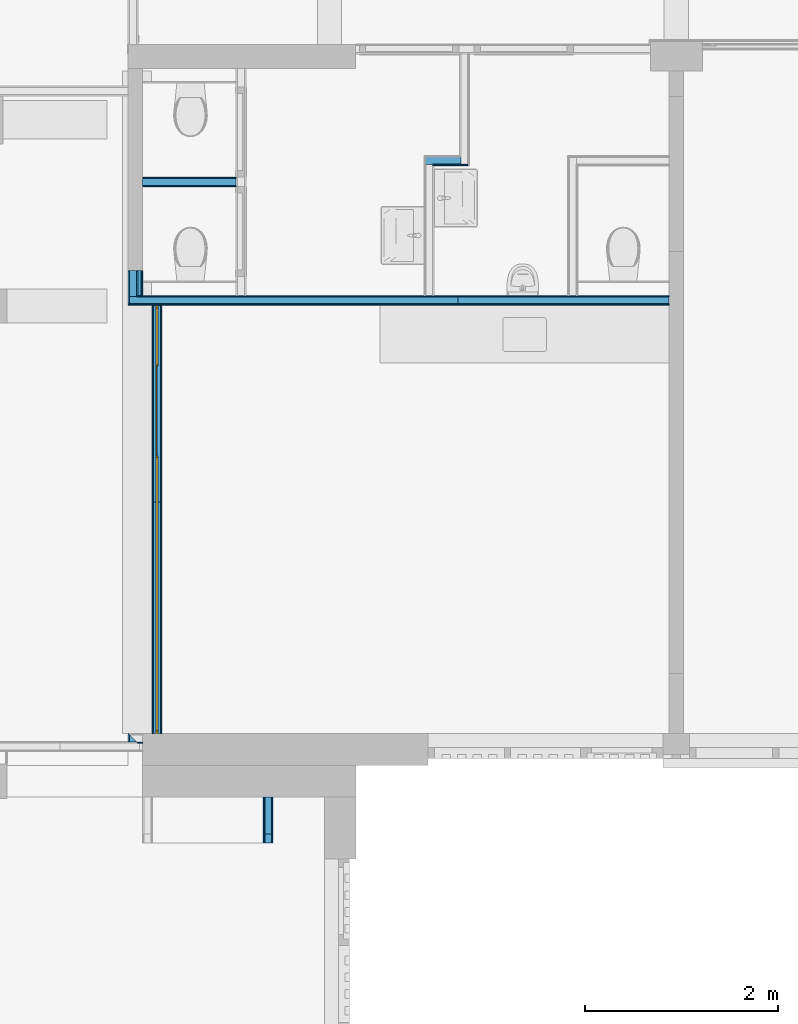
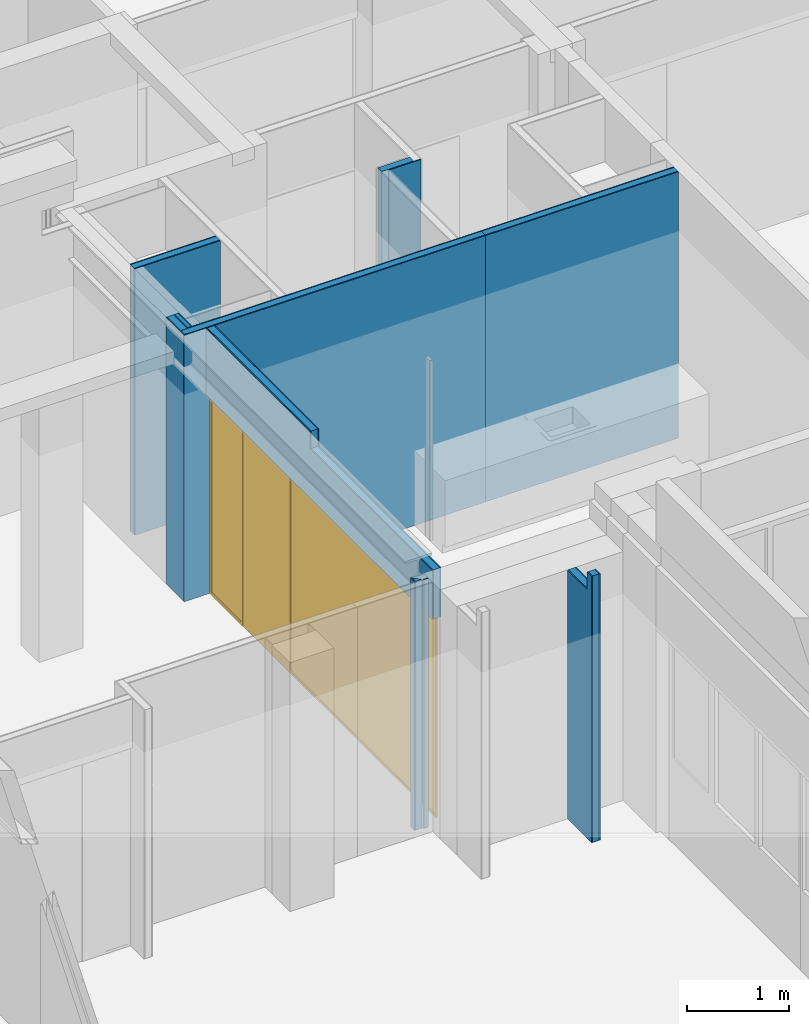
# One storey, part 76 of 117: 25 building element parts, 1 door, 1 opening, 10 elements without a shape of their own.
"""IFC2X3 building model written with IfcOpenShell, lengths in millimetres."""

from ifc_helpers import new_model, entity, si_unit, converted_unit, derived_unit, money_unit, direction, frame, origin_with_axes, place, context, subcontext, project, spatial, open_shell, faceted_brep, surface_model, material, type_object, element, fill, aggregate, save


model = new_model("IFC2X3")

# Units and contexts
model_context = context("Model", 3, precision=0.01, world=origin_with_axes(), true_north=direction((0.0, 1.0)))
body_context = subcontext(model_context, "Body", "Model", "MODEL_VIEW")
ifc_project = project(units=[si_unit("LENGTHUNIT", "METRE", prefix="MILLI"), si_unit("AREAUNIT", "SQUARE_METRE"), si_unit("VOLUMEUNIT", "CUBIC_METRE"), converted_unit("PLANEANGLEUNIT", "DEGREE", entity("IfcPlaneAngleMeasure", 0.0174532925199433), si_unit("PLANEANGLEUNIT", "RADIAN"), dimensions=[0, 0, 0, 0, 0, 0, 0]), money_unit("EUR"), converted_unit("TIMEUNIT", "Year", entity("IfcTimeMeasure", 31557600.0), si_unit("TIMEUNIT", "SECOND"), dimensions=[0, 0, 1, 0, 0, 0, 0]), si_unit("MASSUNIT", "GRAM", prefix="KILO"), si_unit("THERMODYNAMICTEMPERATUREUNIT", "DEGREE_CELSIUS"), si_unit("LUMINOUSINTENSITYUNIT", "LUMEN"), si_unit("ENERGYUNIT", "JOULE", prefix="MEGA"), derived_unit("THERMALCONDUCTANCEUNIT", [(si_unit("POWERUNIT", "WATT"), 1), (si_unit("LENGTHUNIT", "METRE"), -1), (si_unit("THERMODYNAMICTEMPERATUREUNIT", "KELVIN"), -1)]), derived_unit("SPECIFICHEATCAPACITYUNIT", [(si_unit("ENERGYUNIT", "JOULE"), 1), (si_unit("MASSUNIT", "GRAM", prefix="KILO"), -1), (si_unit("THERMODYNAMICTEMPERATUREUNIT", "KELVIN"), -1)]), derived_unit("MASSDENSITYUNIT", [(si_unit("MASSUNIT", "GRAM", prefix="KILO"), 1), (si_unit("VOLUMEUNIT", "CUBIC_METRE"), -1)])], contexts=[model_context])

# Site, building, storey
site_placement = place(None, origin_with_axes())
site = spatial("IfcSite", under=ifc_project, at=site_placement, Name="Site", CompositionType="ELEMENT")
building_placement = place(site_placement, origin_with_axes())
building = spatial("IfcBuilding", under=site, at=building_placement, Name="Naam gebouw", CompositionType="ELEMENT")
storey_placement = place(building_placement, frame((0.0, 0.0, 4150.0), z_axis=(0.0, 0.0, 1.0), x_axis=(1.0, 0.0, 0.0)))
storey = spatial("IfcBuildingStorey", under=building, at=storey_placement, Name="1e verdieping N", CompositionType="ELEMENT", Elevation=4150.0)

# Door
door_style = type_object("IfcDoorStyle", Name="D1 zl2 27", ConstructionType="NOTDEFINED", OperationType="USERDEFINED", ParameterTakesPrecedence=False, Sizeable=False)
wall_9_placement = place(storey_placement, frame((30606.99999999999, 10990.91242510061, 0.0), z_axis=(0.0, 0.0, 1.0), x_axis=(0.0, 1.0, 0.0)))
opening_placement = place(wall_9_placement, frame((2225.000000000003, 0.0, 0.0), z_axis=(0.0, 0.0, 1.0), x_axis=(1.0, 0.0, 0.0)))
door_placement = place(opening_placement, frame((2225.0, 0.0, 0.0), z_axis=(0.0, 0.0, 1.0), x_axis=(-1.0, 0.0, 0.0)))
door = element("IfcDoor", 1, at=door_placement, inside=storey, type_object=door_style, Name="_Merk-x", ObjectType="DOOR", OverallHeight=2400.0, OverallWidth=4450.0, context=body_context, shape_type="SurfaceModel", body=[
    faceted_brep([(4449.999999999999, 10.00000000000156, 0.0), (4449.999999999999, -9.99999999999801, 0.0), (4420.0, -9.99999999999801, 0.0), (4420.0, 10.00000000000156, 0.0), (4449.999999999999, 10.00000000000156, 2370.0), (4449.999999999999, -9.99999999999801, 2370.0), (4420.0, -9.99999999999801, 2370.0), (4420.0, -9.99999999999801, 30.00000000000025), (4420.0, 10.00000000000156, 30.00000000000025), (4420.0, 10.00000000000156, 2370.0)], [[[0, 1, 2, 3]], [[4, 5, 1, 0]], [[1, 5, 6, 7, 2]], [[3, 2, 7, 8]], [[0, 3, 8, 9, 4]], [[9, 6, 5, 4]], [[8, 7, 6, 9]]]),
    faceted_brep([(1550.000000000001, -8.999999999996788, 0.0), (1550.000000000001, -9.99999999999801, 0.0), (1550.000000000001, -9.99999999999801, 2370.0), (1550.000000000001, -8.999999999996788, 2370.0), (1567.0, -8.999999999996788, 0.0), (1567.0, 10.00000000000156, 0.0), (1580.0, 10.00000000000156, 0.0), (1580.0, -9.99999999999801, 0.0), (1580.0, -9.99999999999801, 30.00000000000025), (1580.0, -9.99999999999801, 2370.0), (1567.0, -8.999999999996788, 2370.0), (1580.0, 10.00000000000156, 2370.0), (1567.0, 10.00000000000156, 2370.0), (1580.0, 10.00000000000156, 30.00000000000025)], [[[0, 1, 2, 3]], [[4, 5, 6, 7, 1, 0]], [[7, 8, 9, 2, 1]], [[10, 3, 2, 9, 11, 12]], [[10, 4, 0, 3]], [[12, 5, 4, 10]], [[12, 11, 13, 6, 5]], [[6, 13, 8, 7]], [[13, 11, 9, 8]]]),
    faceted_brep([(4420.0, 10.00000000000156, 30.00000000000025), (4420.0, -9.99999999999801, 30.00000000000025), (4420.0, -9.99999999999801, 0.0), (4420.0, 10.00000000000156, 0.0), (1580.0, 10.00000000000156, 30.00000000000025), (1580.0, -9.99999999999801, 30.00000000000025), (1580.0, -9.99999999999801, 0.0), (1580.0, 10.00000000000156, 0.0)], [[[0, 1, 2, 3]], [[4, 5, 1, 0]], [[1, 5, 6, 2]], [[3, 2, 6, 7]], [[0, 3, 7, 4]], [[7, 6, 5, 4]]]),
    faceted_brep([(0.0, 10.00000000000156, 0.0), (0.0, -9.99999999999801, 0.0), (0.0, -9.99999999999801, 2370.0), (0.0, 10.00000000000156, 2370.0), (29.99999999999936, 10.00000000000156, 0.0), (29.99999999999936, -9.99999999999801, 0.0), (29.99999999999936, -9.99999999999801, 30.00000000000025), (29.99999999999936, -9.99999999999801, 2370.0), (29.99999999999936, 10.00000000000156, 2370.0), (29.99999999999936, 10.00000000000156, 30.00000000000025)], [[[0, 1, 2, 3]], [[4, 5, 1, 0]], [[1, 5, 6, 7, 2]], [[3, 2, 7, 8]], [[0, 3, 8, 9, 4]], [[9, 6, 5, 4]], [[8, 7, 6, 9]]]),
    faceted_brep([(633.0000000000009, -8.999999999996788, 2370.0), (633.0000000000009, 10.00000000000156, 2370.0), (620.000000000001, 10.00000000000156, 2370.0), (620.000000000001, -9.99999999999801, 2370.0), (650.0000000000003, -9.99999999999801, 2370.0), (650.0000000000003, -8.999999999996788, 2370.0), (633.0000000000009, -8.999999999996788, 0.0), (633.0000000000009, 10.00000000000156, 0.0), (620.000000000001, 10.00000000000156, 0.0), (620.000000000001, 10.00000000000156, 30.00000000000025), (620.000000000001, -9.99999999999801, 30.00000000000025), (650.0000000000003, -9.99999999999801, 0.0), (620.000000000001, -9.99999999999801, 0.0), (650.0000000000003, -8.999999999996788, 0.0)], [[[0, 1, 2, 3, 4, 5]], [[0, 6, 7, 1]], [[7, 8, 9, 2, 1]], [[2, 9, 10, 3]], [[11, 4, 3, 10, 12]], [[5, 4, 11, 13]], [[5, 13, 6, 0]], [[6, 13, 11, 12, 8, 7]], [[9, 8, 12, 10]]]),
    faceted_brep([(620.000000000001, 10.00000000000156, 30.00000000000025), (620.000000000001, -9.99999999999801, 30.00000000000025), (620.000000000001, -9.99999999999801, 0.0), (620.000000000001, 10.00000000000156, 0.0), (29.99999999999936, 10.00000000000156, 30.00000000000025), (29.99999999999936, -9.99999999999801, 30.00000000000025), (29.99999999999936, -9.99999999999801, 0.0), (29.99999999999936, 10.00000000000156, 0.0)], [[[0, 1, 2, 3]], [[4, 5, 1, 0]], [[1, 5, 6, 2]], [[3, 2, 6, 7]], [[0, 3, 7, 4]], [[7, 6, 5, 4]]]),
    faceted_brep([(1567.0, 10.00000000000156, 2387.0), (633.0000000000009, 10.00000000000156, 2387.0), (633.0000000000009, 10.00000000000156, 2370.0), (620.000000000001, 10.00000000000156, 2370.0), (29.99999999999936, 10.00000000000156, 2370.0), (0.0, 10.00000000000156, 2370.0), (0.0, 10.00000000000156, 2400.0), (4449.999999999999, 10.00000000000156, 2400.0), (4449.999999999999, 10.00000000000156, 2370.0), (4420.0, 10.00000000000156, 2370.0), (1580.0, 10.00000000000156, 2370.0), (1567.0, 10.00000000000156, 2370.0), (1567.0, -8.999999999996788, 2387.0), (633.0000000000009, -8.999999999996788, 2387.0), (633.0000000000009, -8.999999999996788, 2370.0), (650.0000000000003, -8.999999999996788, 2370.0), (650.0000000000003, -9.99999999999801, 2370.0), (620.000000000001, -9.99999999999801, 2370.0), (29.99999999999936, -9.99999999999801, 2370.0), (0.0, -9.99999999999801, 2370.0), (0.0, -9.99999999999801, 2400.0), (4449.999999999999, -9.99999999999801, 2400.0), (4449.999999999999, -9.99999999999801, 2370.0), (4420.0, -9.99999999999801, 2370.0), (1580.0, -9.99999999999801, 2370.0), (1567.0, -8.999999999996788, 2370.0), (1550.000000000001, -9.99999999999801, 2370.0)], [[[0, 1, 2, 3, 4, 5, 6, 7, 8, 9, 10, 11]], [[0, 12, 13, 1]], [[1, 13, 14, 2]], [[14, 15, 16, 17, 18, 4, 3, 2]], [[5, 4, 18, 19]], [[6, 5, 19, 20]], [[7, 6, 20, 21]], [[8, 7, 21, 22]], [[9, 8, 22, 23]], [[10, 9, 23, 24]], [[25, 11, 10, 24, 26, 16, 15]], [[11, 25, 12, 0]], [[14, 13, 12, 25, 15]], [[18, 17, 16, 26, 24, 23, 22, 21, 20, 19]]]),
    faceted_brep([(633.0000000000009, 1.000000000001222, 0.0), (1567.0, 1.000000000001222, 0.0), (1567.0, -8.999999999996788, 0.0), (633.0000000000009, -8.999999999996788, 0.0), (633.0000000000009, 1.000000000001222, 2387.0), (1567.0, 1.000000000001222, 2387.0), (1567.0, -9.000000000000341, 2387.0), (633.0000000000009, -8.999999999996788, 2387.0)], [[[0, 1, 2, 3]], [[0, 4, 5, 1]], [[1, 5, 6, 2]], [[3, 2, 6, 7]], [[4, 0, 3, 7]], [[5, 4, 7, 6]]]),
    surface_model("IfcShellBasedSurfaceModel", [(4420.0, 9.000000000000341, 30.00000000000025), (1580.0, 9.000000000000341, 30.00000000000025), (1580.0, 9.000000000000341, 2370.0), (4420.0, 9.000000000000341, 2370.0)], [open_shell([[[0, 1, 2, 3]]])]),
    surface_model("IfcShellBasedSurfaceModel", [(4420.0, 1.000000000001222, 30.00000000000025), (4420.0, 1.000000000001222, 2370.0), (1580.0, 1.000000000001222, 2370.0), (1580.0, 1.000000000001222, 30.00000000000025)], [open_shell([[[0, 1, 2, 3]]])]),
    surface_model("IfcShellBasedSurfaceModel", [(619.9999999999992, 9.000000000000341, 30.00000000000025), (29.99999999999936, 9.000000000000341, 30.00000000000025), (29.99999999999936, 9.000000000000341, 2370.0), (619.9999999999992, 9.000000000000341, 2370.0)], [open_shell([[[0, 1, 2, 3]]])]),
    surface_model("IfcShellBasedSurfaceModel", [(619.9999999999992, 1.000000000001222, 30.00000000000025), (619.9999999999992, 1.000000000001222, 2370.0), (29.99999999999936, 1.000000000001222, 2370.0), (29.99999999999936, 1.000000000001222, 30.00000000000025)], [open_shell([[[0, 1, 2, 3]]])]),
])

# Wall, building element parts
wall_type_1 = type_object("IfcWallType", Name="Metalstud iso 100 enkel 100", PredefinedType="NOTDEFINED")
wall_1_placement = place(storey_placement, frame((30356.99999999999, 15440.91242510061, 0.0), z_axis=(0.0, 0.0, 1.0), x_axis=(0.0, 1.0, 0.0)))
wall_1 = element("IfcWall", 2, at=wall_1_placement, inside=storey, type_object=wall_type_1, Name="_Wand-x")
ifc_material_1 = material(Name="Gipsplaat")
building_element_part_1_placement = place(wall_1_placement, origin_with_axes())
building_element_part_1 = element("IfcBuildingElementPart", 3, at=building_element_part_1_placement, material=ifc_material_1, Name="Gipsplaat", context=body_context, shape_type="Brep", body=[
    faceted_brep([(359.9999999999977, -87.49999999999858, 3200.0), (359.9999999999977, -100.0000000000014, 3200.0), (359.9999999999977, -100.0000000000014, 0.0), (359.9999999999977, -87.49999999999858, 0.0), (99.99999999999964, -100.0000000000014, 3200.0), (99.99999999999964, -87.49999999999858, 3200.0), (99.99999999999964, -100.0000000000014, 0.0), (99.99999999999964, -87.49999999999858, 0.0)], [[[0, 1, 2, 3]], [[4, 1, 0, 5]], [[1, 4, 6, 2]], [[7, 3, 2, 6]], [[5, 0, 3, 7]], [[4, 5, 7, 6]]]),
])
ifc_material_2 = material(Name="Isolatie - Steenwol LSW")
building_element_part_2_placement = place(wall_1_placement, origin_with_axes())
building_element_part_2 = element("IfcBuildingElementPart", 4, at=building_element_part_2_placement, material=ifc_material_2, Name="Isolatie - Steenwol LSW", context=body_context, shape_type="Brep", body=[
    faceted_brep([(359.9999999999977, 0.0, 3200.0), (359.9999999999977, -87.49999999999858, 3200.0), (359.9999999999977, -87.49999999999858, 0.0), (359.9999999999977, 0.0, 0.0), (99.99999999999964, -87.49999999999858, 3200.0), (99.99999999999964, 0.0, 3200.0), (99.99999999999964, -87.49999999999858, 0.0), (99.99999999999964, 0.0, 0.0)], [[[0, 1, 2, 3]], [[4, 1, 0, 5]], [[1, 4, 6, 2]], [[7, 3, 2, 6]], [[5, 0, 3, 7]], [[4, 5, 7, 6]]]),
])
aggregate(wall_1, [building_element_part_1, building_element_part_2])

wall_type_2 = type_object("IfcWallType", Name="Metalstud iso 100 100", PredefinedType="NOTDEFINED")
wall_2_placement = place(storey_placement, frame((33749.1870993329, 16990.91242510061, 0.0), z_axis=(0.0, 0.0, 1.0), x_axis=(-1.0, 0.0, 0.0)))
wall_2 = element("IfcWall", 5, at=wall_2_placement, inside=storey, type_object=wall_type_2, Name="_Wand-x")
building_element_part_3_placement = place(wall_2_placement, origin_with_axes())
building_element_part_3 = element("IfcBuildingElementPart", 6, at=building_element_part_3_placement, material=ifc_material_1, Name="Gipsplaat", context=body_context, shape_type="Brep", body=[
    faceted_brep([(278.5689217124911, 87.49999999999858, 3200.0), (-87.49999999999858, 87.49999999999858, 3200.0), (-87.49999999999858, 87.49999999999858, 0.0), (278.5689217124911, 87.49999999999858, 0.0), (-87.49999999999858, 100.0000000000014, 3200.0), (278.5689217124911, 100.0000000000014, 3200.0), (-87.49999999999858, 100.0000000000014, 0.0), (278.5689217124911, 100.0000000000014, 0.0)], [[[0, 1, 2, 3]], [[4, 1, 0, 5]], [[1, 4, 6, 2]], [[7, 3, 2, 6]], [[5, 0, 3, 7]], [[4, 5, 7, 6]]]),
])
building_element_part_4_placement = place(wall_2_placement, origin_with_axes())
building_element_part_4 = element("IfcBuildingElementPart", 7, at=building_element_part_4_placement, material=ifc_material_2, Name="Isolatie - Steenwol LSW", context=body_context, shape_type="Brep", body=[
    faceted_brep([(353.5689217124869, 12.49999999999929, 3200.0), (-12.50000000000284, 12.49999999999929, 3200.0), (-12.50000000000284, 12.49999999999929, 0.0), (353.5689217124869, 12.49999999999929, 0.0), (-12.50000000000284, 87.49999999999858, 3200.0), (353.5689217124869, 87.49999999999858, 3200.0), (-12.50000000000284, 87.49999999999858, 0.0), (353.5689217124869, 87.49999999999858, 0.0)], [[[0, 1, 2, 3]], [[4, 1, 0, 5]], [[1, 4, 6, 2]], [[7, 3, 2, 6]], [[5, 0, 3, 7]], [[4, 5, 7, 6]]]),
])
aggregate(wall_2, [building_element_part_3, building_element_part_4])

wall_3_placement = place(storey_placement, frame((33733.18709933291, 15440.91242510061, 0.0), z_axis=(0.0, 0.0, 1.0), x_axis=(-1.0, 0.0, 0.0)))
wall_3 = element("IfcWall", 8, at=wall_3_placement, inside=storey, type_object=wall_type_2, Name="_Wand-x")
building_element_part_5_placement = place(wall_3_placement, origin_with_axes())
building_element_part_5 = element("IfcBuildingElementPart", 9, at=building_element_part_5_placement, material=ifc_material_2, Name="Isolatie - Steenwol LSW", context=body_context, shape_type="Brep", body=[
    faceted_brep([(3413.687099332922, -87.50000000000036, 3200.0), (0.0, -87.50000000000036, 3200.0), (0.0, -87.50000000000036, 0.0), (3413.687099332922, -87.50000000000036, 0.0), (0.0, -12.49999999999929, 3200.0), (3413.687099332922, -12.49999999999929, 3200.0), (0.0, -12.49999999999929, 0.0), (3413.687099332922, -12.50000000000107, 0.0)], [[[0, 1, 2, 3]], [[4, 1, 0, 5]], [[1, 4, 6, 2]], [[7, 3, 2, 6]], [[5, 0, 3, 7]], [[4, 5, 7, 6]]]),
])
building_element_part_6_placement = place(wall_3_placement, origin_with_axes())
building_element_part_6 = element("IfcBuildingElementPart", 10, at=building_element_part_6_placement, material=ifc_material_1, Name="Gipsplaat", context=body_context, shape_type="Brep", body=[
    faceted_brep([(3426.187099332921, -12.49999999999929, 3200.0), (0.0, -12.49999999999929, 3200.0), (0.0, -12.49999999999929, 0.0), (3426.187099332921, -12.50000000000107, 0.0), (0.0, 0.0, 3200.0), (3426.187099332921, 0.0, 3200.0), (0.0, 0.0, 0.0), (3426.187099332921, 0.0, 0.0)], [[[0, 1, 2, 3]], [[4, 1, 0, 5]], [[1, 4, 6, 2]], [[7, 3, 2, 6]], [[5, 0, 3, 7]], [[4, 5, 7, 6]]]),
])
building_element_part_7_placement = place(wall_3_placement, origin_with_axes())
building_element_part_7 = element("IfcBuildingElementPart", 11, at=building_element_part_7_placement, material=ifc_material_1, Name="Gipsplaat", context=body_context, shape_type="Brep", body=[
    faceted_brep([(3338.687099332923, -99.99999999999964, 3200.0), (0.0, -99.99999999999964, 3200.0), (0.0, -99.99999999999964, 0.0), (3338.687099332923, -99.99999999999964, 0.0), (0.0, -87.50000000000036, 3200.0), (3338.687099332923, -87.50000000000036, 3200.0), (0.0, -87.50000000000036, 0.0), (3338.687099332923, -87.50000000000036, 0.0)], [[[0, 1, 2, 3]], [[4, 1, 0, 5]], [[1, 4, 6, 2]], [[7, 3, 2, 6]], [[5, 0, 3, 7]], [[4, 5, 7, 6]]]),
])
aggregate(wall_3, [building_element_part_5, building_element_part_6, building_element_part_7])

wall_4_placement = place(storey_placement, frame((30456.99999999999, 16720.91242510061, 0.0), z_axis=(0.0, 0.0, 1.0), x_axis=(1.0, 0.0, 0.0)))
wall_4 = element("IfcWall", 12, at=wall_4_placement, inside=storey, type_object=wall_type_2, Name="_Wand-x")
building_element_part_8_placement = place(wall_4_placement, origin_with_axes())
building_element_part_8 = element("IfcBuildingElementPart", 13, at=building_element_part_8_placement, material=ifc_material_1, Name="Gipsplaat", context=body_context, shape_type="Brep", body=[
    faceted_brep([(0.0, 50.00000000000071, 3200.0), (972.1870993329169, 50.00000000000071, 3200.0), (972.1870993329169, 50.00000000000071, 0.0), (0.0, 50.00000000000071, 0.0), (972.1870993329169, 37.50000000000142, 3200.0), (0.0, 37.50000000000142, 3200.0), (972.1870993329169, 37.50000000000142, 0.0), (0.0, 37.50000000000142, 0.0)], [[[0, 1, 2, 3]], [[4, 1, 0, 5]], [[1, 4, 6, 2]], [[6, 7, 3, 2]], [[5, 0, 3, 7]], [[4, 5, 7, 6]]]),
])
building_element_part_9_placement = place(wall_4_placement, origin_with_axes())
building_element_part_9 = element("IfcBuildingElementPart", 14, at=building_element_part_9_placement, material=ifc_material_2, Name="Isolatie - Steenwol LSW", context=body_context, shape_type="Brep", body=[
    faceted_brep([(0.0, 37.50000000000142, 3200.0), (972.1870993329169, 37.50000000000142, 3200.0), (972.1870993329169, 37.50000000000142, 0.0), (0.0, 37.50000000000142, 0.0), (972.1870993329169, -37.50000000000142, 3200.0), (0.0, -37.50000000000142, 3200.0), (972.1870993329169, -37.50000000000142, 0.0), (0.0, -37.50000000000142, 0.0)], [[[0, 1, 2, 3]], [[4, 1, 0, 5]], [[1, 4, 6, 2]], [[6, 7, 3, 2]], [[5, 0, 3, 7]], [[4, 5, 7, 6]]]),
])
building_element_part_10_placement = place(wall_4_placement, origin_with_axes())
building_element_part_10 = element("IfcBuildingElementPart", 15, at=building_element_part_10_placement, material=ifc_material_1, Name="Gipsplaat", context=body_context, shape_type="Brep", body=[
    faceted_brep([(0.0, -37.50000000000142, 3200.0), (972.1870993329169, -37.50000000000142, 3200.0), (972.1870993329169, -37.50000000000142, 0.0), (0.0, -37.50000000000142, 0.0), (972.1870993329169, -50.00000000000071, 3200.0), (0.0, -50.00000000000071, 3200.0), (972.1870993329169, -50.00000000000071, 0.0), (0.0, -50.00000000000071, 0.0)], [[[0, 1, 2, 3]], [[4, 1, 0, 5]], [[1, 4, 6, 2]], [[6, 7, 3, 2]], [[5, 0, 3, 7]], [[4, 5, 7, 6]]]),
])
aggregate(wall_4, [building_element_part_8, building_element_part_9, building_element_part_10])

wall_5_placement = place(storey_placement, frame((30306.99999999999, 15440.91242510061, 0.0), z_axis=(0.0, 0.0, 1.0), x_axis=(0.0, 1.0, 0.0)))
wall_5 = element("IfcWall", 16, at=wall_5_placement, inside=storey, type_object=wall_type_2, Name="_Wand-x")
building_element_part_11_placement = place(wall_5_placement, origin_with_axes())
building_element_part_11 = element("IfcBuildingElementPart", 17, at=building_element_part_11_placement, material=ifc_material_2, Name="Isolatie - Steenwol LSW", context=body_context, shape_type="Brep", body=[
    faceted_brep([(359.9999999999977, -12.49999999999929, 3200.0), (359.9999999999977, -87.49999999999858, 3200.0), (359.9999999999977, -87.49999999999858, 0.0), (359.9999999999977, -12.49999999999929, 0.0), (87.50000000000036, -87.49999999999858, 3200.0), (87.50000000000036, -12.49999999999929, 3200.0), (87.50000000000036, -87.49999999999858, 0.0), (87.50000000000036, -12.49999999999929, 0.0)], [[[0, 1, 2, 3]], [[4, 1, 0, 5]], [[1, 4, 6, 2]], [[7, 3, 2, 6]], [[5, 0, 3, 7]], [[4, 5, 7, 6]]]),
])
building_element_part_12_placement = place(wall_5_placement, origin_with_axes())
building_element_part_12 = element("IfcBuildingElementPart", 18, at=building_element_part_12_placement, material=ifc_material_1, Name="Gipsplaat", context=body_context, shape_type="Brep", body=[
    faceted_brep([(359.9999999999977, -87.49999999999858, 3200.0), (359.9999999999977, -100.0000000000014, 3200.0), (359.9999999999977, -100.0000000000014, 0.0), (359.9999999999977, -87.49999999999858, 0.0), (99.99999999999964, -100.0000000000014, 3200.0), (99.99999999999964, -87.49999999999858, 3200.0), (99.99999999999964, -100.0000000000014, 0.0), (99.99999999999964, -87.49999999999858, 0.0)], [[[0, 1, 2, 3]], [[4, 1, 0, 5]], [[1, 4, 6, 2]], [[7, 3, 2, 6]], [[5, 0, 3, 7]], [[4, 5, 7, 6]]]),
])

# Wall, building element part
wall_6_placement = place(storey_placement, frame((36000.0, 15440.91242510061, 0.0), z_axis=(0.0, 0.0, 1.0), x_axis=(-1.0, 0.0, 0.0)))
wall_6 = element("IfcWall", 19, at=wall_6_placement, inside=storey, type_object=wall_type_2, Name="_Wand-x")
building_element_part_13_placement = place(wall_6_placement, origin_with_axes())
building_element_part_13 = element("IfcBuildingElementPart", 20, at=building_element_part_13_placement, material=ifc_material_1, Name="Gipsplaat", context=body_context, shape_type="Brep", body=[
    faceted_brep([(2266.812900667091, -12.49999999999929, 3200.0), (75.00000000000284, -12.49999999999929, 3200.0), (75.00000000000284, -12.49999999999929, 0.0), (2266.812900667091, -12.49999999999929, 0.0), (75.00000000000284, 0.0, 3200.0), (2266.812900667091, 0.0, 3200.0), (75.00000000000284, 0.0, 0.0), (2266.812900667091, 0.0, 0.0)], [[[0, 1, 2, 3]], [[4, 1, 0, 5]], [[1, 4, 6, 2]], [[3, 2, 6, 7]], [[5, 0, 3, 7]], [[4, 5, 7, 6]]]),
])

# Building element part
building_element_part_14_placement = place(wall_5_placement, origin_with_axes())
building_element_part_14 = element("IfcBuildingElementPart", 21, at=building_element_part_14_placement, material=ifc_material_1, Name="Gipsplaat", context=body_context, shape_type="Brep", body=[
    faceted_brep([(359.9999999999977, 0.0, 3200.0), (359.9999999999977, -12.49999999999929, 3200.0), (359.9999999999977, -12.49999999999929, 0.0), (359.9999999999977, 0.0, 0.0), (12.49999999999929, -12.49999999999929, 3200.0), (12.49999999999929, 0.0, 3200.0), (12.49999999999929, -12.49999999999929, 0.0), (12.49999999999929, 0.0, 0.0)], [[[0, 1, 2, 3]], [[4, 1, 0, 5]], [[1, 4, 6, 2]], [[7, 3, 2, 6]], [[5, 0, 3, 7]], [[4, 5, 7, 6]]]),
])

aggregate(wall_5, [building_element_part_11, building_element_part_12, building_element_part_14])

building_element_part_15_placement = place(wall_6_placement, origin_with_axes())
building_element_part_15 = element("IfcBuildingElementPart", 22, at=building_element_part_15_placement, material=ifc_material_2, Name="Isolatie - Steenwol LSW", context=body_context, shape_type="Brep", body=[
    faceted_brep([(2266.812900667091, -87.50000000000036, 3200.0), (75.00000000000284, -87.50000000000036, 3200.0), (75.00000000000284, -87.50000000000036, 0.0), (2266.812900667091, -87.50000000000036, 0.0), (75.00000000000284, -12.49999999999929, 3200.0), (2266.812900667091, -12.49999999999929, 3200.0), (75.00000000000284, -12.49999999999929, 0.0), (2266.812900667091, -12.49999999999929, 0.0)], [[[0, 1, 2, 3]], [[4, 1, 0, 5]], [[1, 4, 6, 2]], [[3, 2, 6, 7]], [[5, 0, 3, 7]], [[4, 5, 7, 6]]]),
])

building_element_part_16_placement = place(wall_6_placement, origin_with_axes())
building_element_part_16 = element("IfcBuildingElementPart", 23, at=building_element_part_16_placement, material=ifc_material_1, Name="Gipsplaat", context=body_context, shape_type="Brep", body=[
    faceted_brep([(2266.812900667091, -99.99999999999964, 3200.0), (75.00000000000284, -99.99999999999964, 3200.0), (75.00000000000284, -99.99999999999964, 0.0), (2266.812900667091, -99.99999999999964, 0.0), (75.00000000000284, -87.50000000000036, 3200.0), (2266.812900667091, -87.50000000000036, 3200.0), (75.00000000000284, -87.50000000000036, 0.0), (2266.812900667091, -87.50000000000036, 0.0)], [[[0, 1, 2, 3]], [[4, 1, 0, 5]], [[1, 4, 6, 2]], [[3, 2, 6, 7]], [[5, 0, 3, 7]], [[4, 5, 7, 6]]]),
])

aggregate(wall_6, [building_element_part_13, building_element_part_15, building_element_part_16])

# Wall, building element part
wall_7_placement = place(storey_placement, frame((30306.99999999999, 10990.91242510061, 0.0), z_axis=(0.0, 0.0, 1.0), x_axis=(1.0, 0.0, 0.0)))
wall_7 = element("IfcWall", 24, at=wall_7_placement, inside=storey, type_object=wall_type_2, Name="_Wand-x")
building_element_part_17_placement = place(wall_7_placement, origin_with_axes())
building_element_part_17 = element("IfcBuildingElementPart", 25, at=building_element_part_17_placement, material=ifc_material_1, Name="Gipsplaat", context=body_context, shape_type="Brep", body=[
    faceted_brep([(87.50000000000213, -87.50000000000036, 2990.000000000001), (149.9999999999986, -87.50000000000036, 2990.000000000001), (149.9999999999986, -87.50000000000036, 0.0), (87.50000000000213, -87.50000000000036, 0.0), (149.9999999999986, -99.99999999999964, 2990.000000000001), (100.000000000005, -99.99999999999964, 2990.000000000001), (149.9999999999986, -99.99999999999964, 0.0), (100.000000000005, -99.99999999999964, 0.0)], [[[0, 1, 2, 3]], [[4, 1, 0, 5]], [[1, 4, 6, 2]], [[6, 7, 3, 2]], [[5, 0, 3, 7]], [[4, 5, 7, 6]]]),
])
aggregate(wall_7, [building_element_part_17])

# Wall, building element parts
wall_8_placement = place(storey_placement, frame((30306.99999999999, 10805.91242510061, 0.0), z_axis=(0.0, 0.0, 1.0), x_axis=(0.0, 1.0, 0.0)))
wall_8 = element("IfcWall", 26, at=wall_8_placement, inside=storey, type_object=wall_type_2, Name="_Wand-x")
building_element_part_18_placement = place(wall_8_placement, origin_with_axes())
building_element_part_18 = element("IfcBuildingElementPart", 27, at=building_element_part_18_placement, material=ifc_material_1, Name="Gipsplaat", context=body_context, shape_type="Brep", body=[
    faceted_brep([(184.9999999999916, 0.0, 2990.000000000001), (172.4999999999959, -12.49999999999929, 2990.000000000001), (172.4999999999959, -12.49999999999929, 0.0), (184.9999999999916, 0.0, 0.0), (99.99999999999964, -12.49999999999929, 2990.000000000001), (99.99999999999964, 0.0, 2990.000000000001), (99.99999999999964, -12.49999999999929, 0.0), (99.99999999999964, 0.0, 0.0)], [[[0, 1, 2, 3]], [[4, 1, 0, 5]], [[1, 4, 6, 2]], [[2, 6, 7, 3]], [[5, 0, 3, 7]], [[4, 5, 7, 6]]]),
])
building_element_part_19_placement = place(wall_8_placement, origin_with_axes())
building_element_part_19 = element("IfcBuildingElementPart", 28, at=building_element_part_19_placement, material=ifc_material_2, Name="Isolatie - Steenwol LSW", context=body_context, shape_type="Brep", body=[
    faceted_brep([(172.4999999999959, -12.49999999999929, 2990.000000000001), (99.99999999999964, -84.9999999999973, 2990.000000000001), (99.99999999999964, -84.9999999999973, 0.0), (172.4999999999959, -12.49999999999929, 0.0), (99.99999999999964, -12.49999999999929, 2990.000000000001), (99.99999999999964, -12.49999999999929, 0.0)], [[[0, 1, 2, 3]], [[4, 1, 0]], [[1, 4, 5, 2]], [[3, 2, 5]], [[4, 0, 3, 5]]]),
])
aggregate(wall_8, [building_element_part_18, building_element_part_19])

# Wall, opening
wall_9 = element("IfcWall", 29, at=wall_9_placement, inside=storey, type_object=wall_type_2, Name="_Wand-x")
opening = element("IfcOpeningElement", 30, at=opening_placement, cuts=wall_9, Name="_Merk-x", context=body_context, shape_type="Brep", body=[
    faceted_brep([(2225.0, -10.00000000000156, 0.0), (2225.0, -10.00000000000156, 2400.0), (2225.0, -51.00000000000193, 2400.0), (2225.0, -51.00000000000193, 0.0), (2225.0, 51.00000000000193, 0.0), (2225.0, 51.00000000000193, 2400.0), (-2225.0, -9.99999999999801, 2400.0), (-2225.0, -51.00000000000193, 2400.0), (-2225.0, 51.00000000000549, 2400.0), (-2225.0, -51.00000000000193, 0.0), (-2225.0, -10.00000000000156, 0.0), (-2225.0, 51.00000000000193, 0.0)], [[[0, 1, 2, 3]], [[1, 0, 4, 5]], [[6, 7, 2, 1, 5, 8]], [[7, 9, 3, 2]], [[0, 3, 9, 10, 11, 4]], [[5, 4, 11, 8]], [[6, 10, 9, 7]], [[10, 6, 8, 11]]]),
])

fill(opening, door)

# Building element part
building_element_part_20_placement = place(wall_9_placement, origin_with_axes())
building_element_part_20 = element("IfcBuildingElementPart", 31, at=building_element_part_20_placement, material=ifc_material_1, Name="Gipsplaat", context=body_context, shape_type="Brep", body=[
    faceted_brep([(0.0, 37.50000000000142, 2400.0), (4450.000000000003, 37.50000000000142, 2400.0), (4450.000000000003, 37.50000000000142, 3200.0), (2405.000000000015, 37.50000000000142, 3200.000000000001), (2405.000000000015, 37.50000000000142, 2990.000000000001), (0.0, 37.50000000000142, 2990.000000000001), (4450.000000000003, 50.00000000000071, 2400.0), (0.0, 50.00000000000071, 2400.0), (4450.000000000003, 50.00000000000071, 3200.0), (2405.000000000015, 50.00000000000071, 3200.000000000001), (2405.000000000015, 50.00000000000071, 2990.000000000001), (0.0, 50.00000000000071, 2990.000000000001)], [[[0, 1, 2, 3, 4, 5]], [[6, 1, 0, 7]], [[1, 6, 8, 2]], [[3, 2, 8, 9]], [[3, 9, 10, 4]], [[4, 10, 11, 5]], [[7, 0, 5, 11]], [[6, 7, 11, 10, 9, 8]]]),
])

building_element_part_21_placement = place(wall_9_placement, origin_with_axes())
building_element_part_21 = element("IfcBuildingElementPart", 32, at=building_element_part_21_placement, material=ifc_material_2, Name="Isolatie - Steenwol LSW", context=body_context, shape_type="Brep", body=[
    faceted_brep([(0.0, -9.99999999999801, 2400.0), (0.0, 37.50000000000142, 2400.0), (4450.000000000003, 37.50000000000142, 2400.0), (4450.000000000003, -10.00000000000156, 2400.0), (4450.000000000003, -37.50000000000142, 2400.0), (0.0, -37.50000000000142, 2400.0), (0.0, -37.50000000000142, 2990.000000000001), (0.0, 37.50000000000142, 2990.000000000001), (2405.000000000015, 37.50000000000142, 2990.000000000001), (2405.000000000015, 37.50000000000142, 3200.000000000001), (4450.000000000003, 37.50000000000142, 3200.0), (4450.000000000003, -37.50000000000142, 3200.0), (2405.000000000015, -37.50000000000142, 3200.000000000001), (2405.000000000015, -37.50000000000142, 2990.000000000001)], [[[0, 1, 2, 3, 4, 5]], [[1, 0, 5, 6, 7]], [[2, 1, 7, 8, 9, 10]], [[3, 2, 10, 11, 4]], [[12, 13, 6, 5, 4, 11]], [[8, 7, 6, 13]], [[9, 8, 13, 12]], [[11, 10, 9, 12]]]),
])

building_element_part_22_placement = place(wall_9_placement, origin_with_axes())
building_element_part_22 = element("IfcBuildingElementPart", 33, at=building_element_part_22_placement, material=ifc_material_1, Name="Gipsplaat", context=body_context, shape_type="Brep", body=[
    faceted_brep([(0.0, -50.00000000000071, 2400.0), (4450.000000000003, -50.00000000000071, 2400.0), (4450.000000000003, -50.00000000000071, 3200.0), (2405.000000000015, -50.00000000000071, 3200.000000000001), (2405.000000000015, -50.00000000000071, 2990.000000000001), (0.0, -50.00000000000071, 2990.000000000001), (4450.000000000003, -37.50000000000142, 2400.0), (0.0, -37.50000000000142, 2400.0), (4450.000000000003, -37.50000000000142, 3200.0), (2405.000000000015, -37.50000000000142, 3200.000000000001), (2405.000000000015, -37.50000000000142, 2990.000000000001), (0.0, -37.50000000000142, 2990.000000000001)], [[[0, 1, 2, 3, 4, 5]], [[6, 1, 0, 7]], [[1, 6, 8, 2]], [[3, 2, 8, 9]], [[3, 9, 10, 4]], [[4, 10, 11, 5]], [[7, 0, 5, 11]], [[6, 7, 11, 10, 9, 8]]]),
])

aggregate(wall_9, [building_element_part_20, building_element_part_21, building_element_part_22])

# Wall, building element parts
wall_10_placement = place(storey_placement, frame((31811.1870993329, 10660.91242510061, 0.0), z_axis=(0.0, 0.0, 1.0), x_axis=(0.0, -1.0, 0.0)))
wall_10 = element("IfcWall", 34, at=wall_10_placement, inside=storey, type_object=wall_type_2, Name="_Wand-x")
building_element_part_23_placement = place(wall_10_placement, origin_with_axes())
building_element_part_23 = element("IfcBuildingElementPart", 35, at=building_element_part_23_placement, material=ifc_material_1, Name="Gipsplaat", context=body_context, shape_type="Brep", body=[
    faceted_brep([(330.0000000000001, -12.49999999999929, 2990.000000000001), (330.0000000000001, 0.0, 2990.000000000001), (330.0000000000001, 0.0, 0.0), (330.0000000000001, -12.49999999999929, 0.0), (714.9999999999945, 0.0, 2990.000000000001), (714.9999999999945, -12.49999999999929, 2990.000000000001), (714.9999999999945, 0.0, 3200.000000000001), (804.999999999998, 0.0, 3200.0), (804.999999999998, 0.0, 0.0), (804.999999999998, -12.49999999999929, 0.0), (804.999999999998, -12.49999999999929, 3200.0), (714.9999999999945, -12.49999999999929, 3200.000000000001)], [[[0, 1, 2, 3]], [[4, 1, 0, 5]], [[4, 6, 7, 8, 2, 1]], [[9, 3, 2, 8]], [[5, 0, 3, 9, 10, 11]], [[11, 6, 4, 5]], [[6, 11, 10, 7]], [[7, 10, 9, 8]]]),
])
building_element_part_24_placement = place(wall_10_placement, origin_with_axes())
building_element_part_24 = element("IfcBuildingElementPart", 36, at=building_element_part_24_placement, material=ifc_material_2, Name="Isolatie - Steenwol LSW", context=body_context, shape_type="Brep", body=[
    faceted_brep([(330.0000000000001, -87.49999999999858, 2990.000000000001), (330.0000000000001, -12.49999999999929, 2990.000000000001), (330.0000000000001, -12.49999999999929, 0.0), (330.0000000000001, -87.49999999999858, 0.0), (714.9999999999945, -12.49999999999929, 2990.000000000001), (714.9999999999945, -87.49999999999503, 2990.000000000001), (714.9999999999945, -12.49999999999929, 3200.000000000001), (804.999999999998, -12.49999999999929, 3200.0), (804.999999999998, -12.49999999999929, 0.0), (804.999999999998, -87.49999999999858, 0.0), (804.999999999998, -87.49999999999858, 3200.0), (714.9999999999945, -87.49999999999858, 3200.000000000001)], [[[0, 1, 2, 3]], [[4, 1, 0, 5]], [[4, 6, 7, 8, 2, 1]], [[9, 3, 2, 8]], [[5, 0, 3, 9, 10, 11]], [[11, 6, 4, 5]], [[6, 11, 10, 7]], [[7, 10, 9, 8]]]),
])
building_element_part_25_placement = place(wall_10_placement, origin_with_axes())
building_element_part_25 = element("IfcBuildingElementPart", 37, at=building_element_part_25_placement, material=ifc_material_1, Name="Gipsplaat", context=body_context, shape_type="Brep", body=[
    faceted_brep([(330.0000000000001, -100.0000000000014, 2990.000000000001), (330.0000000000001, -87.49999999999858, 2990.000000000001), (330.0000000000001, -87.49999999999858, 0.0), (330.0000000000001, -100.0000000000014, 0.0), (714.9999999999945, -87.49999999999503, 2990.000000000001), (714.9999999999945, -99.99999999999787, 2990.000000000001), (714.9999999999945, -87.49999999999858, 3200.000000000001), (804.999999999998, -87.49999999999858, 3200.0), (804.999999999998, -87.49999999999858, 0.0), (804.999999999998, -100.0000000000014, 0.0), (804.999999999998, -100.0000000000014, 3200.0), (714.9999999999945, -100.0000000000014, 3200.000000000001)], [[[0, 1, 2, 3]], [[4, 1, 0, 5]], [[4, 6, 7, 8, 2, 1]], [[9, 3, 2, 8]], [[5, 0, 3, 9, 10, 11]], [[11, 6, 4, 5]], [[6, 11, 10, 7]], [[7, 10, 9, 8]]]),
])
aggregate(wall_10, [building_element_part_23, building_element_part_24, building_element_part_25])

save(model, "model.ifc")
